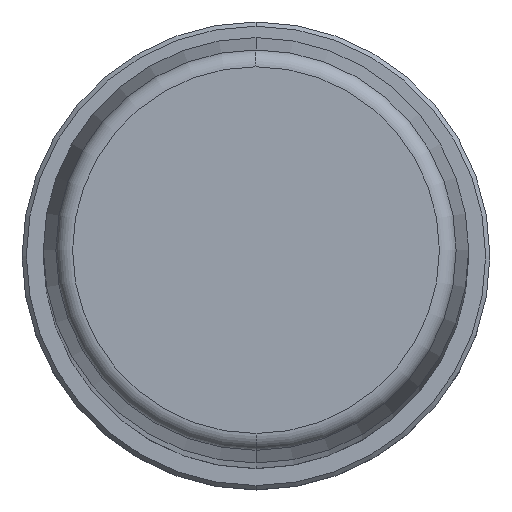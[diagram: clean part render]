
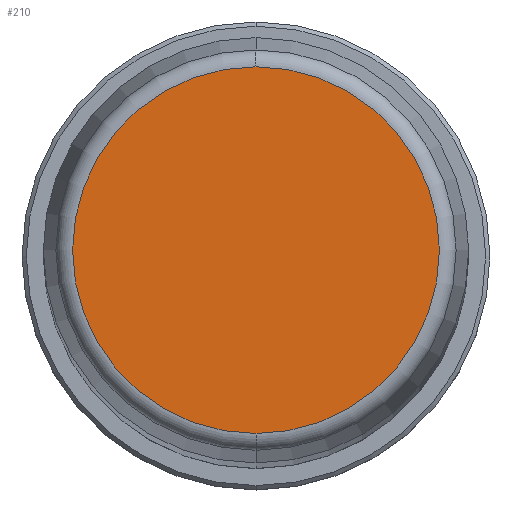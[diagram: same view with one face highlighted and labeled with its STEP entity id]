
A CAD part, top view. The second image highlights one B-rep face of the part: STEP entity #210.
In plain terms, the highlighted planar face has unit normal (0, 0, 1).
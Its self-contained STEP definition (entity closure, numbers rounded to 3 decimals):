
#1=CARTESIAN_POINT('',(0.,0.,400.));
#2=DIRECTION('',(0.,0.,-1.));
#3=DIRECTION('',(0.,-1.,0.));
#4=AXIS2_PLACEMENT_3D('',#1,#2,#3);
#6=CARTESIAN_POINT('',(0.,0.,400.));
#7=DIRECTION('',(0.,0.,-1.));
#8=DIRECTION('',(0.,1.,0.));
#9=AXIS2_PLACEMENT_3D('',#6,#7,#8);
#183=CARTESIAN_POINT('',(0.,-21.559,400.));
#184=CARTESIAN_POINT('',(0.,21.559,400.));
#185=VERTEX_POINT('',#183);
#186=VERTEX_POINT('',#184);
#199=CARTESIAN_POINT('',(0.,0.,400.));
#200=DIRECTION('',(0.,0.,1.));
#201=DIRECTION('',(0.,-1.,0.));
#202=AXIS2_PLACEMENT_3D('',#199,#200,#201);
#203=PLANE('',#202);
#205=ORIENTED_EDGE('',*,*,#204,.T.);
#207=ORIENTED_EDGE('',*,*,#206,.T.);
#208=EDGE_LOOP('',(#205,#207));
#209=FACE_OUTER_BOUND('',#208,.F.);
#210=ADVANCED_FACE('',(#209),#203,.T.);
#5=CIRCLE('',#4,21.559);
#10=CIRCLE('',#9,21.559);
#204=EDGE_CURVE('',#185,#186,#5,.T.);
#206=EDGE_CURVE('',#186,#185,#10,.T.);
